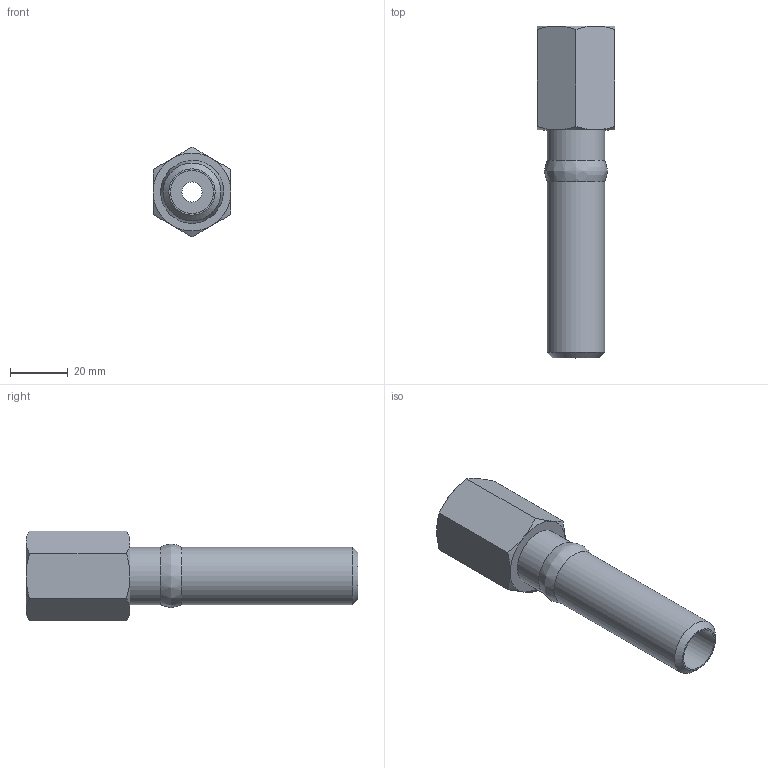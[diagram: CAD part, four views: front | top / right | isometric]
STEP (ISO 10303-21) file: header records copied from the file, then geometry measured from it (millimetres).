
FILE_DESCRIPTION(/* description */ (''),/* implementation_level */ '2;1');
FILE_NAME(/* name */ '1309-STST-015-PN160 - 11812130.stp',/* time_stamp */ '2024-06-19T13:03:47+02:00',/* author */ ('roger.thijssen'),/* organization */ (''),/* preprocessor_version */ 'ST-DEVELOPER v20',/* originating_system */ 'Autodesk Inventor 2024',/* authorisation */ '');
FILE_SCHEMA (('AUTOMOTIVE_DESIGN { 1 0 10303 214 3 1 1 }'));
Length unit declared in the file: millimetre
Products named in the file (1): 1309-STST-015-PN160 - 11812130
Bounding box: 27 x 115 x 31.18 mm (x, y, z)
Volume: 31624.8 mm3; surface area: 13993.3 mm2
Topology: 1 solids, 1 shells, 30 faces, 62 edges, 37 vertices
Faces by surface type: cone 13, plane 11, cylinder 5, bspline 1
Full cylindrical faces by diameter (mm): 7 x1, 15 x1, 18.631 x1, 20 x2
Entity records: 872 total; most frequent: CARTESIAN_POINT 204, ORIENTED_EDGE 124, DIRECTION 124, EDGE_CURVE 62, AXIS2_PLACEMENT_3D 56, VERTEX_POINT 37, EDGE_LOOP 35, STYLED_ITEM 31
